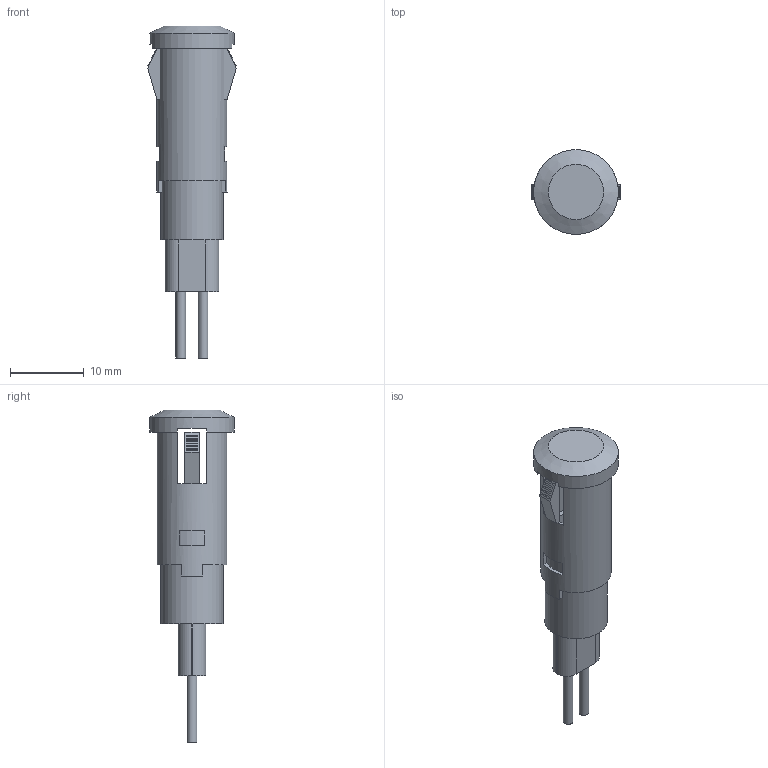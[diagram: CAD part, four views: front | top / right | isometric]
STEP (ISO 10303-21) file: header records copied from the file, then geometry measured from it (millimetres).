
FILE_DESCRIPTION(('FreeCAD Model'),'2;1');
FILE_NAME('Open CASCADE Shape Model','2022-03-17T11:34:03',( 'Engenharia Metaltex'),('Metaltex'), 'Open CASCADE STEP processor 7.5','FreeCAD','Unknown');
FILE_SCHEMA(('AUTOMOTIVE_DESIGN { 1 0 10303 214 1 1 1 1 }'));
Length unit declared in the file: millimetre
Products named in the file (4): IL10; Branco; Laranja; Tampa
Assembly tree (3 placements, depth 2):
  IL10
    Branco
    Laranja
    Tampa
Bounding box: 12 x 11.5 x 45 mm (x, y, z)
Volume: 1365.9 mm3; surface area: 2289.1 mm2
Topology: 3 solids, 3 shells, 126 faces, 316 edges, 208 vertices
Faces by surface type: plane 110, cylinder 15, cone 1
Full cylindrical faces by diameter (mm): 1.3 x2, 2 x2, 7 x1, 8.5 x2, 9.5 x1, 11.5 x1
Entity records: 8049 total; most frequent: CARTESIAN_POINT 1476, DIRECTION 1245, LINE 801, VECTOR 801, ORIENTED_EDGE 632, PCURVE 632, DEFINITIONAL_REPRESENTATION 632, EDGE_CURVE 316
